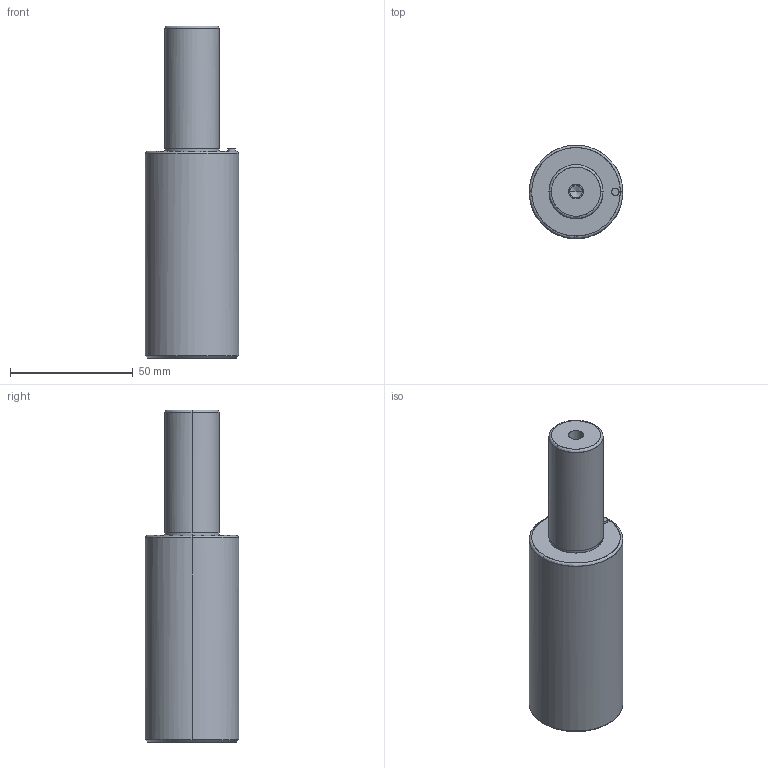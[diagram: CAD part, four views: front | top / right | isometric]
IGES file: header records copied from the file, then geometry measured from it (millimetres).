
Global section: file name: E:\UnigraphicsGraphicData\MISUMI_PRESS-PARTS\IGES\3d_gsc38-50_03847_r00.igs; native system: NX V5.0; preprocessor: UGS NX IGES V5.0; author: MISUMI; date: 20110105.160747; units: millimetre
Bounding box: 38 x 37.92 x 135 mm (x, y, z)
Surface area: 16271.1 mm2 (no closed solid volume)
Topology: 0 solids, 0 shells, 32 faces, 216 edges, 212 vertices
Faces by surface type: bspline 32
